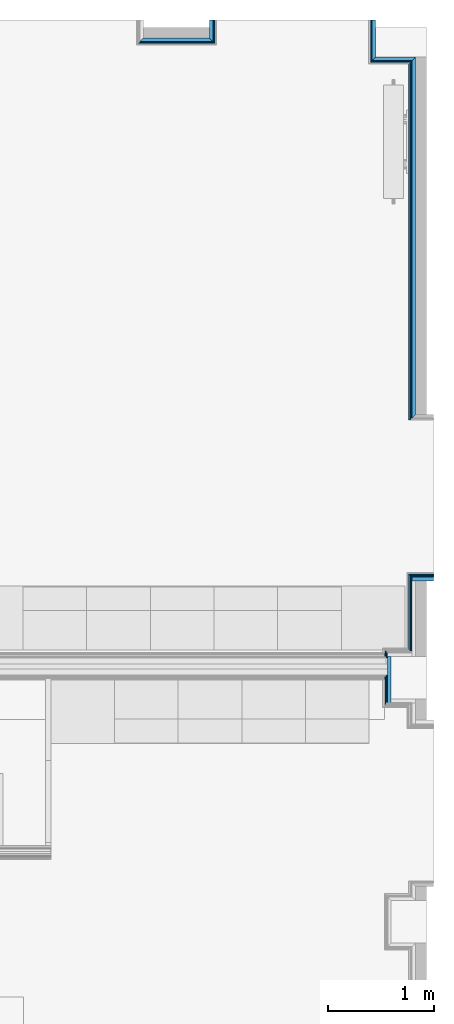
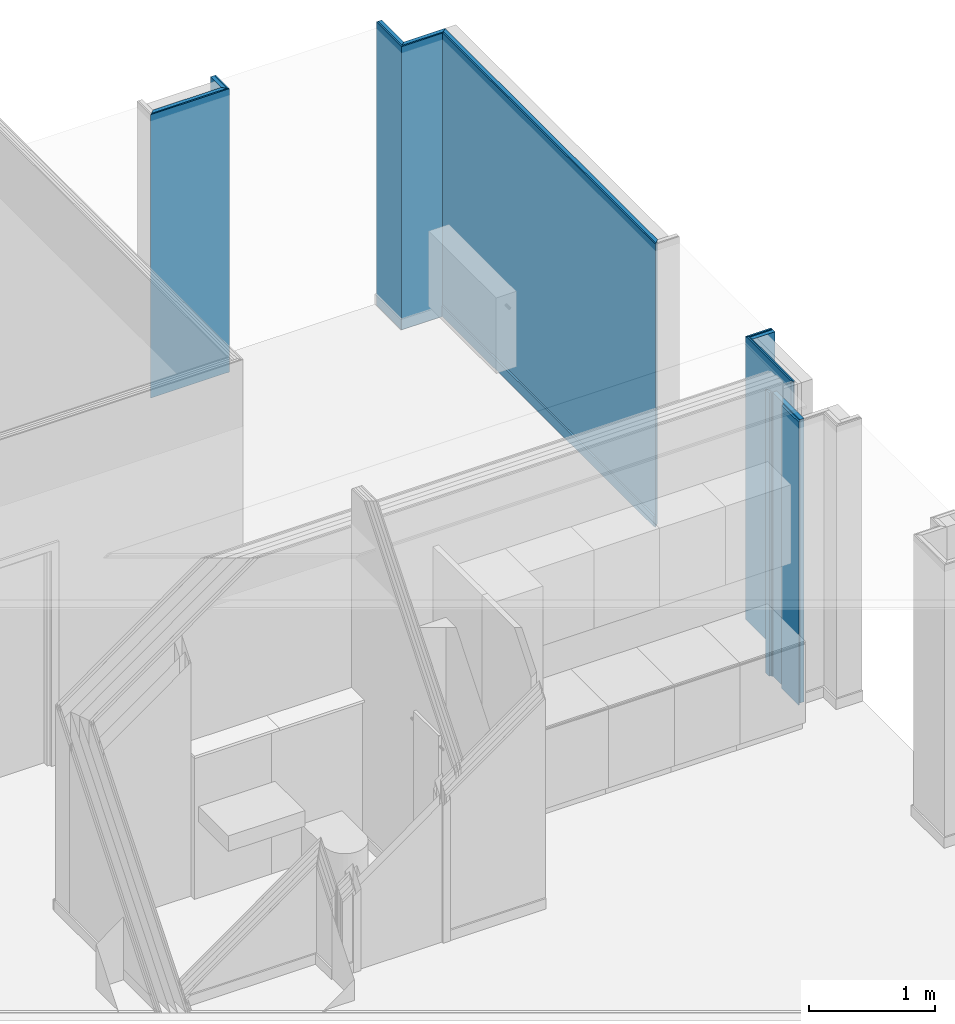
# One storey, part 24 of 64: 21 building element parts, 8 elements without a shape of their own.
"""IFC2X3 building model written with IfcOpenShell, lengths in metres."""

from ifc_helpers import new_model, entity, si_unit, converted_unit, derived_unit, money_unit, direction, frame, frame_2d, origin_with_axes, place, context, subcontext, project, spatial, polyline, rectangle, outline, extrude, material, type_object, element, aggregate, save


model = new_model("IFC2X3")

# Units and contexts
model_context = context("Model", 3, precision=1e-05, world=origin_with_axes(), true_north=direction((0.0, 1.0)))
body_context = subcontext(model_context, "Body", "Model", "MODEL_VIEW", scale=1.0)
ifc_project = project(units=[si_unit("LENGTHUNIT", "METRE"), si_unit("AREAUNIT", "SQUARE_METRE"), si_unit("VOLUMEUNIT", "CUBIC_METRE"), si_unit("ABSORBEDDOSEUNIT", "GRAY"), si_unit("AMOUNTOFSUBSTANCEUNIT", "MOLE"), si_unit("DOSEEQUIVALENTUNIT", "SIEVERT"), si_unit("ELECTRICCAPACITANCEUNIT", "FARAD"), si_unit("ELECTRICCHARGEUNIT", "COULOMB"), si_unit("ELECTRICCONDUCTANCEUNIT", "SIEMENS"), si_unit("ELECTRICCURRENTUNIT", "AMPERE"), si_unit("ELECTRICRESISTANCEUNIT", "OHM"), si_unit("ELECTRICVOLTAGEUNIT", "VOLT"), si_unit("ENERGYUNIT", "JOULE"), si_unit("FORCEUNIT", "NEWTON"), si_unit("FREQUENCYUNIT", "HERTZ"), si_unit("ILLUMINANCEUNIT", "LUX"), si_unit("INDUCTANCEUNIT", "HENRY"), si_unit("LUMINOUSFLUXUNIT", "LUMEN"), si_unit("LUMINOUSINTENSITYUNIT", "CANDELA"), si_unit("MAGNETICFLUXDENSITYUNIT", "TESLA"), si_unit("MAGNETICFLUXUNIT", "WEBER"), si_unit("MASSUNIT", "GRAM"), converted_unit("PLANEANGLEUNIT", "degree", entity("IfcReal", 0.0174532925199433), si_unit("PLANEANGLEUNIT", "RADIAN"), dimensions=[0, 0, 0, 0, 0, 0, 0]), si_unit("POWERUNIT", "WATT"), si_unit("PRESSUREUNIT", "PASCAL"), si_unit("RADIOACTIVITYUNIT", "BECQUEREL"), si_unit("SOLIDANGLEUNIT", "STERADIAN"), si_unit("THERMODYNAMICTEMPERATUREUNIT", "KELVIN"), si_unit("TIMEUNIT", "SECOND"), derived_unit("ACCELERATIONUNIT", [(si_unit("LENGTHUNIT", "METRE"), 1), (si_unit("TIMEUNIT", "SECOND"), -2)]), derived_unit("ANGULARVELOCITYUNIT", [(converted_unit("PLANEANGLEUNIT", "degree", entity("IfcReal", 0.0174532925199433), si_unit("PLANEANGLEUNIT", "RADIAN"), dimensions=[0, 0, 0, 0, 0, 0, 0]), 1), (si_unit("TIMEUNIT", "SECOND"), -1)]), derived_unit("CURVATUREUNIT", [(converted_unit("PLANEANGLEUNIT", "degree", entity("IfcReal", 0.0174532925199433), si_unit("PLANEANGLEUNIT", "RADIAN"), dimensions=[0, 0, 0, 0, 0, 0, 0]), 1), (si_unit("LENGTHUNIT", "METRE"), -1)]), derived_unit("DYNAMICVISCOSITYUNIT", [(si_unit("PRESSUREUNIT", "PASCAL"), 1), (si_unit("TIMEUNIT", "SECOND"), 1)]), derived_unit("HEATFLUXDENSITYUNIT", [(si_unit("POWERUNIT", "WATT"), 1), (si_unit("LENGTHUNIT", "METRE"), -2)]), derived_unit("HEATINGVALUEUNIT", [(si_unit("ENERGYUNIT", "JOULE"), 1), (si_unit("MASSUNIT", "GRAM"), -1)]), derived_unit("INTEGERCOUNTRATEUNIT", [(si_unit("TIMEUNIT", "SECOND"), -1)]), derived_unit("IONCONCENTRATIONUNIT", [(si_unit("MASSUNIT", "GRAM"), 1), (si_unit("VOLUMEUNIT", "CUBIC_METRE"), -1)]), derived_unit("ISOTHERMALMOISTURECAPACITYUNIT", [(si_unit("VOLUMEUNIT", "CUBIC_METRE"), 1), (si_unit("MASSUNIT", "GRAM"), -1)]), derived_unit("KINEMATICVISCOSITYUNIT", [(si_unit("AREAUNIT", "SQUARE_METRE"), 1), (si_unit("TIMEUNIT", "SECOND"), -1)]), derived_unit("LINEARFORCEUNIT", [(si_unit("FORCEUNIT", "NEWTON"), 1), (si_unit("LENGTHUNIT", "METRE"), -1)]), derived_unit("LINEARMOMENTUNIT", [(si_unit("FORCEUNIT", "NEWTON"), 1), (si_unit("LENGTHUNIT", "METRE"), -1)]), derived_unit("LINEARSTIFFNESSUNIT", [(si_unit("FORCEUNIT", "NEWTON"), 1), (si_unit("LENGTHUNIT", "METRE"), -1)]), derived_unit("LINEARVELOCITYUNIT", [(si_unit("LENGTHUNIT", "METRE"), 1), (si_unit("TIMEUNIT", "SECOND"), -1)]), derived_unit("LUMINOUSINTENSITYDISTRIBUTIONUNIT", [(si_unit("LUMINOUSINTENSITYUNIT", "CANDELA"), 1), (si_unit("LUMINOUSFLUXUNIT", "LUMEN"), -1)]), derived_unit("MASSDENSITYUNIT", [(si_unit("MASSUNIT", "GRAM"), 1), (si_unit("VOLUMEUNIT", "CUBIC_METRE"), -1)]), derived_unit("MASSFLOWRATEUNIT", [(si_unit("MASSUNIT", "GRAM"), 1), (si_unit("TIMEUNIT", "SECOND"), -1)]), derived_unit("MASSPERLENGTHUNIT", [(si_unit("MASSUNIT", "GRAM"), 1), (si_unit("LENGTHUNIT", "METRE"), -1)]), derived_unit("MODULUSOFELASTICITYUNIT", [(si_unit("FORCEUNIT", "NEWTON"), 1), (si_unit("AREAUNIT", "SQUARE_METRE"), -1)]), derived_unit("MODULUSOFLINEARSUBGRADEREACTIONUNIT", [(si_unit("FORCEUNIT", "NEWTON"), 1), (si_unit("LENGTHUNIT", "METRE"), -2)]), derived_unit("MODULUSOFROTATIONALSUBGRADEREACTIONUNIT", [(si_unit("FORCEUNIT", "NEWTON"), 1), (si_unit("LENGTHUNIT", "METRE"), 1)]), derived_unit("MODULUSOFSUBGRADEREACTIONUNIT", [(si_unit("FORCEUNIT", "NEWTON"), 1), (si_unit("VOLUMEUNIT", "CUBIC_METRE"), -1)]), derived_unit("MOISTUREDIFFUSIVITYUNIT", [(si_unit("VOLUMEUNIT", "CUBIC_METRE"), 1), (si_unit("TIMEUNIT", "SECOND"), -1)]), derived_unit("MOLECULARWEIGHTUNIT", [(si_unit("MASSUNIT", "GRAM"), 1), (si_unit("AMOUNTOFSUBSTANCEUNIT", "MOLE"), -1)]), derived_unit("PLANARFORCEUNIT", [(si_unit("FORCEUNIT", "NEWTON"), 1), (si_unit("LENGTHUNIT", "METRE"), -2)]), derived_unit("ROTATIONALFREQUENCYUNIT", [(si_unit("TIMEUNIT", "SECOND"), -1)]), derived_unit("ROTATIONALMASSUNIT", [(si_unit("MASSUNIT", "GRAM"), 1), (si_unit("LENGTHUNIT", "METRE"), 2)]), derived_unit("ROTATIONALSTIFFNESSUNIT", [(si_unit("FORCEUNIT", "NEWTON"), 1), (si_unit("LENGTHUNIT", "METRE"), 1), (converted_unit("PLANEANGLEUNIT", "degree", entity("IfcReal", 0.0174532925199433), si_unit("PLANEANGLEUNIT", "RADIAN"), dimensions=[0, 0, 0, 0, 0, 0, 0]), -1)]), derived_unit("SECTIONAREAINTEGRALUNIT", [(si_unit("LENGTHUNIT", "METRE"), 5)]), derived_unit("SECTIONMODULUSUNIT", [(si_unit("LENGTHUNIT", "METRE"), 3)]), derived_unit("SHEARMODULUSUNIT", [(si_unit("FORCEUNIT", "NEWTON"), 1), (si_unit("AREAUNIT", "SQUARE_METRE"), -1)]), derived_unit("SOUNDPOWERUNIT", [(si_unit("ENERGYUNIT", "JOULE"), 1), (si_unit("TIMEUNIT", "SECOND"), -1)]), derived_unit("SPECIFICHEATCAPACITYUNIT", [(si_unit("FORCEUNIT", "NEWTON"), 1), (si_unit("MASSUNIT", "GRAM"), -1), (si_unit("THERMODYNAMICTEMPERATUREUNIT", "KELVIN"), -1)]), derived_unit("TEMPERATUREGRADIENTUNIT", [(si_unit("THERMODYNAMICTEMPERATUREUNIT", "KELVIN"), 1), (si_unit("LENGTHUNIT", "METRE"), -1)]), derived_unit("THERMALADMITTANCEUNIT", [(si_unit("POWERUNIT", "WATT"), 1), (si_unit("AREAUNIT", "SQUARE_METRE"), -1), (si_unit("THERMODYNAMICTEMPERATUREUNIT", "KELVIN"), -1)]), derived_unit("THERMALCONDUCTANCEUNIT", [(si_unit("POWERUNIT", "WATT"), 1), (si_unit("LENGTHUNIT", "METRE"), -1), (si_unit("THERMODYNAMICTEMPERATUREUNIT", "KELVIN"), -1)]), derived_unit("THERMALEXPANSIONCOEFFICIENTUNIT", [(si_unit("THERMODYNAMICTEMPERATUREUNIT", "KELVIN"), -1)]), derived_unit("THERMALRESISTANCEUNIT", [(si_unit("AREAUNIT", "SQUARE_METRE"), 1), (si_unit("POWERUNIT", "WATT"), -1)]), derived_unit("THERMALTRANSMITTANCEUNIT", [(si_unit("POWERUNIT", "WATT"), 1), (si_unit("AREAUNIT", "SQUARE_METRE"), -1), (si_unit("THERMODYNAMICTEMPERATUREUNIT", "KELVIN"), -1)]), derived_unit("TORQUEUNIT", [(si_unit("FORCEUNIT", "NEWTON"), 1), (si_unit("LENGTHUNIT", "METRE"), 1)]), derived_unit("VAPORPERMEABILITYUNIT", [(si_unit("MASSUNIT", "GRAM"), 1), (si_unit("TIMEUNIT", "SECOND"), -1)]), derived_unit("VOLUMETRICFLOWRATEUNIT", [(si_unit("VOLUMEUNIT", "CUBIC_METRE"), 1), (si_unit("TIMEUNIT", "SECOND"), -1)]), derived_unit("WARPINGCONSTANTUNIT", [(si_unit("LENGTHUNIT", "METRE"), 6)]), derived_unit("WARPINGMOMENTUNIT", [(si_unit("FORCEUNIT", "NEWTON"), 1), (si_unit("LENGTHUNIT", "METRE"), 2)]), money_unit("GBP")], contexts=[model_context])

# Site, building, storey
site_placement = place(None, origin_with_axes())
site = spatial("IfcSite", under=ifc_project, at=site_placement, Name="Site", CompositionType="ELEMENT")
building_placement = place(site_placement, origin_with_axes())
building = spatial("IfcBuilding", under=site, at=building_placement, Name="Building01", CompositionType="ELEMENT")
storey_placement = place(building_placement, frame((0.0, 0.0, 8.64), z_axis=(0.0, 0.0, 1.0), x_axis=(1.0, 0.0, 0.0)))
storey = spatial("IfcBuildingStorey", under=building, at=storey_placement, Name="2F", CompositionType="ELEMENT", Elevation=8.64)

# Wall, building element parts
wall_type_1 = type_object("IfcWallType", Name="SHE_A-Walls_Type06d_ExternalWallInsulation_48mm", PredefinedType="NOTDEFINED")
wall_1_placement = place(storey_placement, frame((24.767, 14.8, 0.0), z_axis=(0.0, 0.0, 1.0), x_axis=(0.0, -1.0, 0.0)))
wall_1 = element("IfcWall", 1, at=wall_1_placement, inside=storey, type_object=wall_type_1, Name="6D", ObjectType="SHE_A-Walls_Type06d_ExternalWallInsulation_48mm")
ifc_material_1 = material(Name="A_BSUK_Insulation")
placement_1 = place(wall_1_placement, origin_with_axes())
building_element_part_1 = element("IfcBuildingElementPart", 2, at=placement_1, material=ifc_material_1, Name="1", context=body_context, shape_type="SweptSolid", body=[
    extrude(outline(polyline([(0.206, 0.036), (0.0, 0.036), (0.0, 0.0), (0.17, 0.0), (0.206, 0.036)])), origin_with_axes(), (0.0, 0.0, 1.0), 2.74),
])
ifc_material_2 = material(Name="A_BSUK_WallInternal_Finishes_Plasterboard")
building_element_part_2 = element("IfcBuildingElementPart", 3, at=placement_1, material=ifc_material_2, Name="2", context=body_context, shape_type="SweptSolid", body=[
    extrude(outline(polyline([(0.218, 0.048), (0.0, 0.048), (0.0, 0.035), (0.205, 0.035), (0.218, 0.048)])), origin_with_axes(), (0.0, 0.0, 1.0), 2.74),
])
aggregate(wall_1, [building_element_part_1, building_element_part_2])

wall_2_placement = place(storey_placement, frame((24.767, 14.63, 0.0), z_axis=(0.0, 0.0, 1.0), x_axis=(-1.0, 0.0, 0.0)))
wall_2 = element("IfcWall", 4, at=wall_2_placement, inside=storey, type_object=wall_type_1, Name="6D", ObjectType="SHE_A-Walls_Type06d_ExternalWallInsulation_48mm")
placement_2 = place(wall_2_placement, origin_with_axes())
building_element_part_3 = element("IfcBuildingElementPart", 5, at=placement_2, material=ifc_material_1, Name="1", context=body_context, shape_type="SweptSolid", body=[
    extrude(outline(polyline([(0.66, 0.036), (-0.036, 0.036), (0.0, 0.0), (0.624, 0.0), (0.66, 0.036)])), origin_with_axes(), (0.0, 0.0, 1.0), 2.74),
])
building_element_part_4 = element("IfcBuildingElementPart", 6, at=placement_2, material=ifc_material_2, Name="2", context=body_context, shape_type="SweptSolid", body=[
    extrude(outline(polyline([(0.672, 0.048), (-0.048, 0.048), (-0.035, 0.035), (0.659, 0.035), (0.672, 0.048)])), origin_with_axes(), (0.0, 0.0, 1.0), 2.74),
])
aggregate(wall_2, [building_element_part_3, building_element_part_4])

wall_3_placement = place(storey_placement, frame((26.71, 11.08018, 0.0), z_axis=(0.0, 0.0, 1.0), x_axis=(0.0, 1.0, 0.0)))
wall_3 = element("IfcWall", 7, at=wall_3_placement, inside=storey, type_object=wall_type_1, Name="6D", ObjectType="SHE_A-Walls_Type06d_ExternalWallInsulation_48mm")
placement_3 = place(wall_3_placement, origin_with_axes())
building_element_part_5 = element("IfcBuildingElementPart", 8, at=placement_3, material=ifc_material_1, Name="1", context=body_context, shape_type="SweptSolid", body=[
    extrude(outline(polyline([(3.33382, 0.036), (-0.036, 0.036), (0.0, 0.0), (3.36982, 0.0), (3.33382, 0.036)])), origin_with_axes(), (0.0, 0.0, 1.0), 2.74),
])
building_element_part_6 = element("IfcBuildingElementPart", 9, at=placement_3, material=ifc_material_2, Name="2", context=body_context, shape_type="SweptSolid", body=[
    extrude(outline(polyline([(3.32182, 0.048), (-0.048, 0.048), (-0.035, 0.035), (3.33482, 0.035), (3.32182, 0.048)])), origin_with_axes(), (0.0, 0.0, 1.0), 2.74),
])
ifc_material_3 = material(Name="A_BSUK_Walls_Timber")
building_element_part_7 = element("IfcBuildingElementPart", 10, at=placement_3, material=ifc_material_3, Name="3", context=body_context, shape_type="SweptSolid", body=[
    extrude(outline(polyline([(3.30682, 0.063), (-0.048, 0.063), (-0.048, 0.048), (3.32182, 0.048), (3.30682, 0.063)])), frame((0.0, 0.0, 0.015), z_axis=(0.0, 0.0, 1.0), x_axis=(1.0, 0.0, 0.0)), (0.0, 0.0, 1.0), 0.1),
])
aggregate(wall_3, [building_element_part_5, building_element_part_6, building_element_part_7])

wall_4_placement = place(storey_placement, frame((26.71, 14.45, 0.0), z_axis=(0.0, 0.0, 1.0), x_axis=(-1.0, 0.0, 0.0)))
wall_4 = element("IfcWall", 11, at=wall_4_placement, inside=storey, type_object=wall_type_1, Name="6D", ObjectType="SHE_A-Walls_Type06d_ExternalWallInsulation_48mm")
placement_4 = place(wall_4_placement, origin_with_axes())
building_element_part_8 = element("IfcBuildingElementPart", 12, at=placement_4, material=ifc_material_1, Name="1", context=body_context, shape_type="SweptSolid", body=[
    extrude(outline(polyline([(0.413, 0.036), (0.036, 0.036), (0.0, 0.0), (0.377, 0.0), (0.413, 0.036)])), origin_with_axes(), (0.0, 0.0, 1.0), 2.74),
])
building_element_part_9 = element("IfcBuildingElementPart", 13, at=placement_4, material=ifc_material_2, Name="2", context=body_context, shape_type="SweptSolid", body=[
    extrude(outline(polyline([(0.425, 0.048), (0.048, 0.048), (0.035, 0.035), (0.412, 0.035), (0.425, 0.048)])), origin_with_axes(), (0.0, 0.0, 1.0), 2.74),
])
aggregate(wall_4, [building_element_part_8, building_element_part_9])

wall_5_placement = place(storey_placement, frame((26.333, 14.45, 0.0), z_axis=(0.0, 0.0, 1.0), x_axis=(0.0, 1.0, 0.0)))
wall_5 = element("IfcWall", 14, at=wall_5_placement, inside=storey, type_object=wall_type_1, Name="6D", ObjectType="SHE_A-Walls_Type06d_ExternalWallInsulation_48mm")
placement_5 = place(wall_5_placement, origin_with_axes())
building_element_part_10 = element("IfcBuildingElementPart", 15, at=placement_5, material=ifc_material_1, Name="1", context=body_context, shape_type="SweptSolid", body=[
    extrude(outline(polyline([(-0.036, 0.036), (0.0, 0.0), (0.35, 0.0), (0.35, 0.036), (-0.036, 0.036)])), origin_with_axes(), (0.0, 0.0, 1.0), 2.74),
])
building_element_part_11 = element("IfcBuildingElementPart", 16, at=placement_5, material=ifc_material_2, Name="2", context=body_context, shape_type="SweptSolid", body=[
    extrude(outline(polyline([(-0.048, 0.048), (-0.035, 0.035), (0.35, 0.035), (0.35, 0.048), (-0.048, 0.048)])), origin_with_axes(), (0.0, 0.0, 1.0), 2.74),
])
aggregate(wall_5, [building_element_part_10, building_element_part_11])

wall_type_2 = type_object("IfcWallType", Name="SHE_A-Walls_Type06f_ExternalWallInsulation_48+15mm", PredefinedType="NOTDEFINED")
wall_6_placement = place(storey_placement, frame((26.71, 9.51418, 0.0), z_axis=(0.0, 0.0, 1.0), x_axis=(0.0, -1.0, 0.0)))
wall_6 = element("IfcWall", 17, at=wall_6_placement, inside=storey, type_object=wall_type_2, Name="6F", ObjectType="SHE_A-Walls_Type06f_ExternalWallInsulation_48+15mm")
placement_6 = place(wall_6_placement, origin_with_axes())
building_element_part_12 = element("IfcBuildingElementPart", 18, at=placement_6, material=ifc_material_2, Name="2", context=body_context, shape_type="SweptSolid", body=[
    extrude(outline(polyline([(0.66618, -0.048), (-0.048, -0.048), (-0.063, -0.063), (0.65118, -0.063), (0.66618, -0.048)])), origin_with_axes(), (0.0, 0.0, 1.0), 2.74),
])
building_element_part_13 = element("IfcBuildingElementPart", 19, at=placement_6, material=ifc_material_2, Name="3", context=body_context, shape_type="SweptSolid", body=[
    extrude(rectangle(XDim=0.71418, YDim=0.012, at=frame_2d((0.30909, -0.042), x_axis=(-1.0, 0.0))), origin_with_axes(), (0.0, 0.0, 1.0), 2.74),
])
aggregate(wall_6, [building_element_part_12, building_element_part_13])

wall_7_placement = place(storey_placement, frame((26.88, 9.51418, 0.0), z_axis=(0.0, 0.0, 1.0), x_axis=(-1.0, 0.0, 0.0)))
wall_7 = element("IfcWall", 20, at=wall_7_placement, inside=storey, type_object=wall_type_2, Name="6F", ObjectType="SHE_A-Walls_Type06f_ExternalWallInsulation_48+15mm")
placement_7 = place(wall_7_placement, origin_with_axes())
building_element_part_14 = element("IfcBuildingElementPart", 21, at=placement_7, material=ifc_material_2, Name="2", context=body_context, shape_type="SweptSolid", body=[
    extrude(outline(polyline([(0.218, -0.048), (0.0, -0.048), (0.0, -0.063), (0.233, -0.063), (0.218, -0.048)])), origin_with_axes(), (0.0, 0.0, 1.0), 2.74),
])
building_element_part_15 = element("IfcBuildingElementPart", 22, at=placement_7, material=ifc_material_2, Name="3", context=body_context, shape_type="SweptSolid", body=[
    extrude(rectangle(XDim=0.206, YDim=0.012, at=frame_2d((0.103, -0.042), x_axis=(-1.0, 0.0))), origin_with_axes(), (0.0, 0.0, 1.0), 2.74),
])
building_element_part_16 = element("IfcBuildingElementPart", 23, at=placement_7, material=ifc_material_1, Name="4", context=body_context, shape_type="SweptSolid", body=[
    extrude(rectangle(XDim=0.206, YDim=0.036, at=frame_2d((0.103, -0.018), x_axis=(-1.0, 0.0))), origin_with_axes(), (0.0, 0.0, 1.0), 2.74),
])
aggregate(wall_7, [building_element_part_14, building_element_part_15, building_element_part_16])

wall_8_placement = place(storey_placement, frame((26.48, 8.8, 0.0), z_axis=(0.0, 0.0, 1.0), x_axis=(0.0, -1.0, 0.0)))
wall_8 = element("IfcWall", 24, at=wall_8_placement, inside=storey, type_object=wall_type_2, Name="6F", ObjectType="SHE_A-Walls_Type06f_ExternalWallInsulation_48+15mm")
placement_8 = place(wall_8_placement, origin_with_axes())
building_element_part_17 = element("IfcBuildingElementPart", 25, at=placement_8, material=ifc_material_2, Name="3", context=body_context, shape_type="SweptSolid", body=[
    extrude(outline(polyline([(-0.048, -0.048), (-0.063, -0.063), (-0.005, -0.063), (-0.005, -0.048), (-0.048, -0.048)])), origin_with_axes(), (0.0, 0.0, 1.0), 2.74),
])
building_element_part_18 = element("IfcBuildingElementPart", 26, at=placement_8, material=ifc_material_2, Name="4", context=body_context, shape_type="SweptSolid", body=[
    extrude(outline(polyline([(0.448, -0.048), (0.19, -0.048), (0.19, -0.063), (0.463, -0.063), (0.448, -0.048)])), origin_with_axes(), (0.0, 0.0, 1.0), 2.74),
])
building_element_part_19 = element("IfcBuildingElementPart", 27, at=placement_8, material=ifc_material_2, Name="5", context=body_context, shape_type="SweptSolid", body=[
    extrude(rectangle(XDim=0.012, YDim=0.046, at=frame_2d((-0.013, -0.042), x_axis=(0.0, -1.0))), origin_with_axes(), (0.0, 0.0, 1.0), 2.74),
])
building_element_part_20 = element("IfcBuildingElementPart", 28, at=placement_8, material=ifc_material_2, Name="6", context=body_context, shape_type="SweptSolid", body=[
    extrude(rectangle(XDim=0.261, YDim=0.012, at=frame_2d((0.3055, -0.042), x_axis=(-1.0, 0.0))), origin_with_axes(), (0.0, 0.0, 1.0), 2.74),
])
building_element_part_21 = element("IfcBuildingElementPart", 29, at=placement_8, material=ifc_material_1, Name="7", context=body_context, shape_type="SweptSolid", body=[
    extrude(rectangle(XDim=0.436, YDim=0.036, at=frame_2d((0.218, -0.018), x_axis=(-1.0, 0.0))), origin_with_axes(), (0.0, 0.0, 1.0), 2.74),
])
aggregate(wall_8, [building_element_part_17, building_element_part_18, building_element_part_19, building_element_part_20, building_element_part_21])

save(model, "model.ifc")
